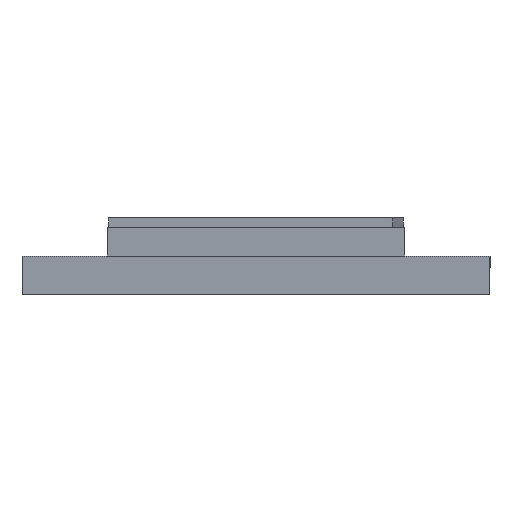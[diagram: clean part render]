
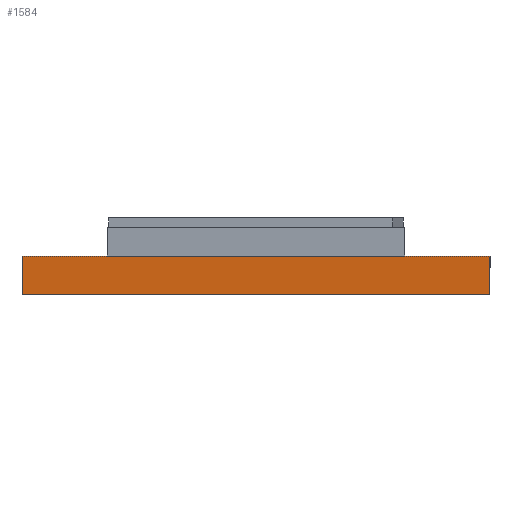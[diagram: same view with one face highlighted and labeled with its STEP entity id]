
A CAD part, left-side view. The second image highlights one B-rep face of the part: STEP entity #1584.
In plain terms, the highlighted planar face has unit normal (-0.99, 0.139, 0).
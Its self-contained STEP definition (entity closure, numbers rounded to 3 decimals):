
#58 = LINE ( 'NONE', #2978, #3324 ) ;
#239 = EDGE_CURVE ( 'NONE', #1777, #3246, #58, .T. ) ;
#328 = LINE ( 'NONE', #1638, #1489 ) ;
#396 = ORIENTED_EDGE ( 'NONE', *, *, #3400, .F. ) ;
#500 = CARTESIAN_POINT ( 'NONE',  ( 15.353, 23.347, 4. ) ) ;
#512 = DIRECTION ( 'NONE',  ( 0.139, 0.99, 0. ) ) ;
#575 = ORIENTED_EDGE ( 'NONE', *, *, #239, .T. ) ;
#731 = ORIENTED_EDGE ( 'NONE', *, *, #2072, .T. ) ;
#801 = DIRECTION ( 'NONE',  ( -0.139, -0.99, 0. ) ) ;
#827 = VERTEX_POINT ( 'NONE', #1555 ) ;
#873 = ORIENTED_EDGE ( 'NONE', *, *, #2426, .F. ) ;
#879 = AXIS2_PLACEMENT_3D ( 'NONE', #2672, #1642, #512 ) ;
#892 = EDGE_LOOP ( 'NONE', ( #575, #873, #731, #396 ) ) ;
#894 = CARTESIAN_POINT ( 'NONE',  ( 15.516, 24.5, 0. ) ) ;
#905 = DIRECTION ( 'NONE',  ( 0., 0., -1. ) ) ;
#1087 = PLANE ( 'NONE',  #879 ) ;
#1121 = DIRECTION ( 'NONE',  ( 0., 0., 1. ) ) ;
#1489 = VECTOR ( 'NONE', #905, 1000. ) ;
#1555 = CARTESIAN_POINT ( 'NONE',  ( 15.516, 24.5, 4. ) ) ;
#1584 = ADVANCED_FACE ( 'NONE', ( #2946 ), #1087, .F. ) ;
#1638 = CARTESIAN_POINT ( 'NONE',  ( 15.516, 24.5, 0. ) ) ;
#1639 = CARTESIAN_POINT ( 'NONE',  ( 8.629, -24.5, 4. ) ) ;
#1642 = DIRECTION ( 'NONE',  ( 0.99, -0.139, 0. ) ) ;
#1777 = VERTEX_POINT ( 'NONE', #2747 ) ;
#2072 = EDGE_CURVE ( 'NONE', #827, #2883, #328, .T. ) ;
#2189 = LINE ( 'NONE', #2731, #3142 ) ;
#2426 = EDGE_CURVE ( 'NONE', #827, #3246, #3140, .T. ) ;
#2672 = CARTESIAN_POINT ( 'NONE',  ( 18.21, 43.67, 0. ) ) ;
#2731 = CARTESIAN_POINT ( 'NONE',  ( 18.21, 43.67, 0. ) ) ;
#2747 = CARTESIAN_POINT ( 'NONE',  ( 8.629, -24.5, 0. ) ) ;
#2883 = VERTEX_POINT ( 'NONE', #894 ) ;
#2946 = FACE_OUTER_BOUND ( 'NONE', #892, .T. ) ;
#2978 = CARTESIAN_POINT ( 'NONE',  ( 8.629, -24.5, 0. ) ) ;
#3022 = DIRECTION ( 'NONE',  ( 0.139, 0.99, 0. ) ) ;
#3140 = LINE ( 'NONE', #500, #3204 ) ;
#3142 = VECTOR ( 'NONE', #3022, 1000. ) ;
#3204 = VECTOR ( 'NONE', #801, 1000. ) ;
#3246 = VERTEX_POINT ( 'NONE', #1639 ) ;
#3324 = VECTOR ( 'NONE', #1121, 1000. ) ;
#3400 = EDGE_CURVE ( 'NONE', #1777, #2883, #2189, .T. ) ;
